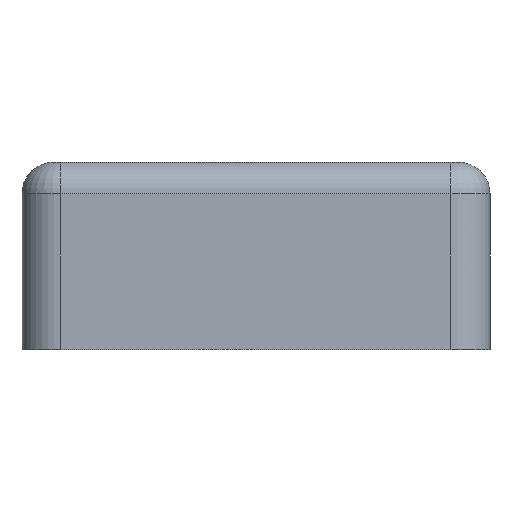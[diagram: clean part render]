
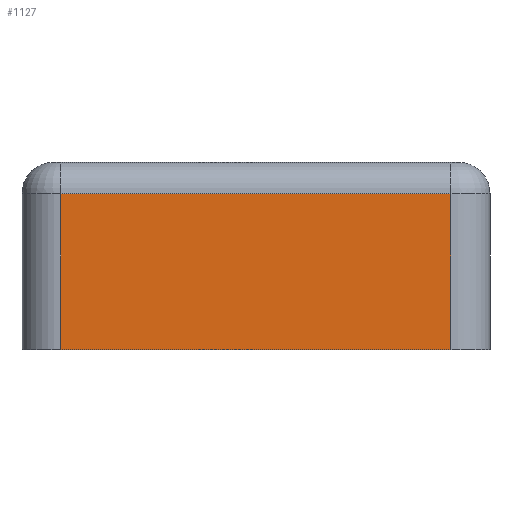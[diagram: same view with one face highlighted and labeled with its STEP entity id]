
A CAD part, front view. The second image highlights one B-rep face of the part: STEP entity #1127.
In plain terms, the highlighted planar face has unit normal (0, -1, 0).
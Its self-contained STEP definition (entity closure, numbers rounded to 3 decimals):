
#490 = AXIS2_PLACEMENT_3D ( 'NONE', #5547, #5541, #5540 ) ;
#1127 = ADVANCED_FACE ( 'NONE', ( #2686 ), #5551, .F. ) ;
#1590 = EDGE_CURVE ( 'NONE', #4372, #4391, #2423, .T. ) ;
#1595 = EDGE_CURVE ( 'NONE', #5142, #4374, #2430, .T. ) ;
#1609 = EDGE_CURVE ( 'NONE', #4391, #5142, #2451, .T. ) ;
#1727 = EDGE_CURVE ( 'NONE', #4374, #4372, #3229, .T. ) ;
#1890 = EDGE_LOOP ( 'NONE', ( #1973, #1972, #1971, #1970 ) ) ;
#1970 = ORIENTED_EDGE ( 'NONE', *, *, #1595, .T. ) ;
#1971 = ORIENTED_EDGE ( 'NONE', *, *, #1609, .T. ) ;
#1972 = ORIENTED_EDGE ( 'NONE', *, *, #1590, .T. ) ;
#1973 = ORIENTED_EDGE ( 'NONE', *, *, #1727, .T. ) ;
#2423 = LINE ( 'NONE', #3483, #2425 ) ;
#2425 = VECTOR ( 'NONE', #3507, 1000. ) ;
#2430 = LINE ( 'NONE', #3770, #2433 ) ;
#2433 = VECTOR ( 'NONE', #3786, 1000. ) ;
#2451 = LINE ( 'NONE', #3984, #2454 ) ;
#2454 = VECTOR ( 'NONE', #3973, 1000. ) ;
#2686 = FACE_OUTER_BOUND ( 'NONE', #1890, .T. ) ;
#3229 = LINE ( 'NONE', #3404, #3271 ) ;
#3271 = VECTOR ( 'NONE', #3398, 1000. ) ;
#3398 = DIRECTION ( 'NONE',  ( 0., 0., 1. ) ) ;
#3404 = CARTESIAN_POINT ( 'NONE',  ( 12.5, -30., 12. ) ) ;
#3483 = CARTESIAN_POINT ( 'NONE',  ( -15., -30., 10. ) ) ;
#3507 = DIRECTION ( 'NONE',  ( -1., 0., 0. ) ) ;
#3770 = CARTESIAN_POINT ( 'NONE',  ( -15., -30., 0. ) ) ;
#3786 = DIRECTION ( 'NONE',  ( 1., 0., 0. ) ) ;
#3904 = CARTESIAN_POINT ( 'NONE',  ( 12.5, -30., 10. ) ) ;
#3923 = CARTESIAN_POINT ( 'NONE',  ( -12.5, -30., 10. ) ) ;
#3953 = CARTESIAN_POINT ( 'NONE',  ( 12.5, -30., 0. ) ) ;
#3973 = DIRECTION ( 'NONE',  ( 0., 0., -1. ) ) ;
#3976 = CARTESIAN_POINT ( 'NONE',  ( -12.5, -30., 0. ) ) ;
#3984 = CARTESIAN_POINT ( 'NONE',  ( -12.5, -30., 12. ) ) ;
#4372 = VERTEX_POINT ( 'NONE', #3904 ) ;
#4374 = VERTEX_POINT ( 'NONE', #3953 ) ;
#4391 = VERTEX_POINT ( 'NONE', #3923 ) ;
#5142 = VERTEX_POINT ( 'NONE', #3976 ) ;
#5540 = DIRECTION ( 'NONE',  ( -1., 0., 0. ) ) ;
#5541 = DIRECTION ( 'NONE',  ( 0., 1., 0. ) ) ;
#5547 = CARTESIAN_POINT ( 'NONE',  ( -15., -30., 12. ) ) ;
#5551 = PLANE ( 'NONE',  #490 ) ;
